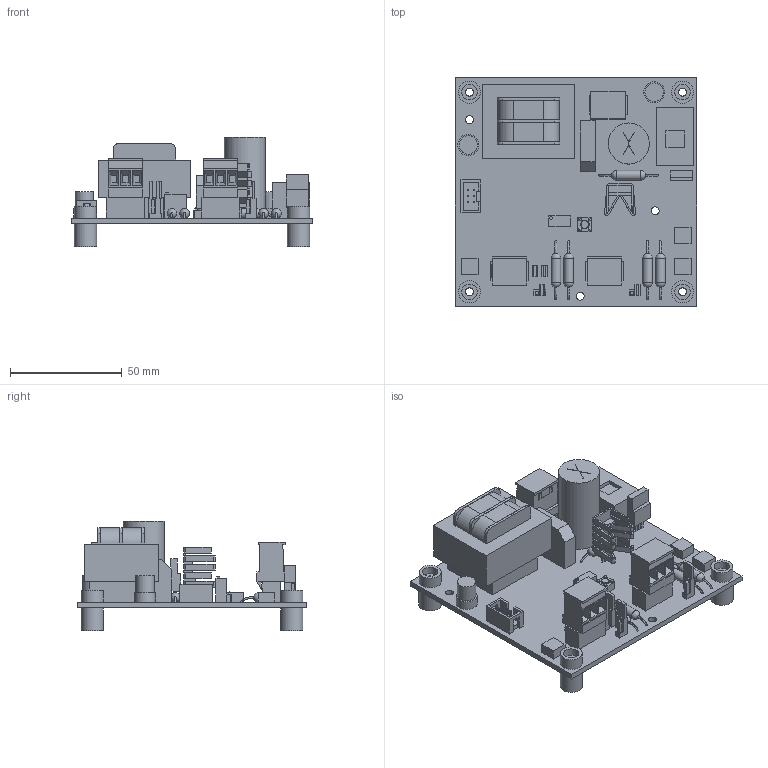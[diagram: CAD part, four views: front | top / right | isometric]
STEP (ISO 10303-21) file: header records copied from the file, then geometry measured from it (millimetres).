
FILE_DESCRIPTION(/* description */ (''),/* implementation_level */ '2;1');
FILE_NAME(/* name */ 'D:\MCS - SERVER ORGANIZATION\Drawings - Mcs Hardware\Boards & Electrical Parts\MCS-MODBUS\MCS-MODBUS-IO\Imported Components\MCS-MODBUS-IO\MCS-MODBUS-IO.stp',/* time_stamp */ '2015-09-23T10:59:41-04:00',/* author */ ('Ian L Mitchell'),/* organization */ (''),/* preprocessor_version */ 'ST-DEVELOPER v15.2',/* originating_system */ 'Autodesk Inventor 2014',/* authorisation */ '');
FILE_SCHEMA (('AUTOMOTIVE_DESIGN { 1 0 10303 214 3 1 1 }'));
Length unit declared in the file: inch
Products named in the file (1): MCS-MODBUS-IO
Bounding box: 107.95 x 101.98 x 48.9 mm (x, y, z)
Volume: 102569.3 mm3; surface area: 51498.6 mm2
Topology: 1 solids, 1 shells, 881 faces, 2451 edges, 1609 vertices
Faces by surface type: plane 713, cylinder 135, sphere 14, bspline 10, cone 9
Full cylindrical faces by diameter (mm): 1.143 x4, 1.27 x1, 3.378 x1, 3.556 x7, 3.81 x1, 4.318 x5, 6.858 x4, 7.175 x1, 7.176 x3, 8.23 x2, 9.398 x2, 9.906 x4, 9.969 x2, 9.97 x2, 18.352 x1
Entity records: 29036 total; most frequent: CARTESIAN_POINT 6688, ORIENTED_EDGE 4758, DIRECTION 4290, EDGE_CURVE 2374, LINE 1956, VECTOR 1956, VERTEX_POINT 1590, AXIS2_PLACEMENT_3D 1167
